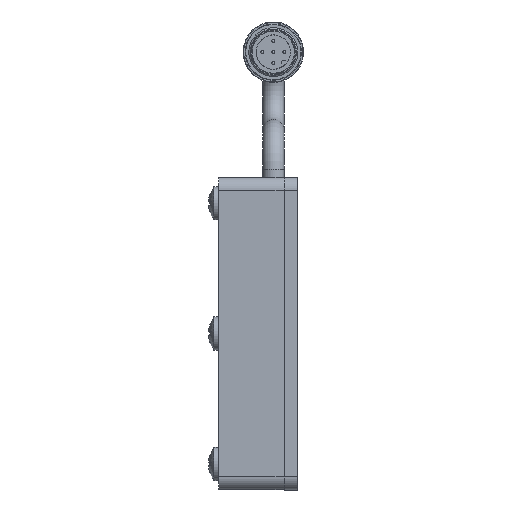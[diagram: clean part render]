
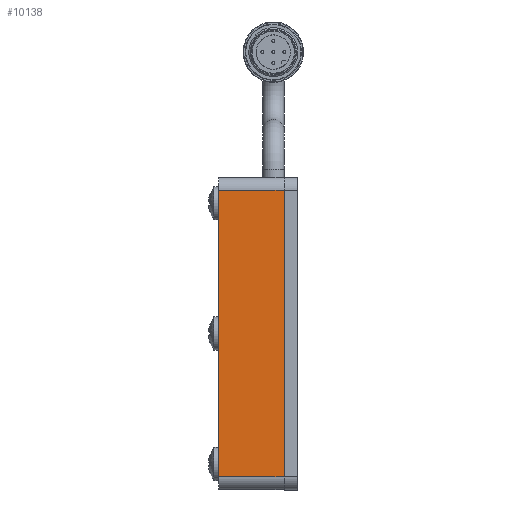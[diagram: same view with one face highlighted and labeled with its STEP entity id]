
A CAD part, left-side view. The second image highlights one B-rep face of the part: STEP entity #10138.
In plain terms, the highlighted planar face has unit normal (-1, 0, 0).
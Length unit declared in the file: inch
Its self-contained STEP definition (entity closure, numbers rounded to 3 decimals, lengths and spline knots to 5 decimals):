
#215 = DIRECTION ( 'NONE',  ( 0., 0., 1. ) ) ;
#358 = ORIENTED_EDGE ( 'NONE', *, *, #5972, .T. ) ;
#893 = ORIENTED_EDGE ( 'NONE', *, *, #4540, .F. ) ;
#942 = VECTOR ( 'NONE', #10187, 39.37008 ) ;
#1330 = VECTOR ( 'NONE', #215, 39.37008 ) ;
#2131 = CARTESIAN_POINT ( 'NONE',  ( -5.5, -0.3125, 1.375 ) ) ;
#2212 = LINE ( 'NONE', #11617, #1330 ) ;
#2345 = EDGE_CURVE ( 'NONE', #9845, #12682, #2212, .T. ) ;
#2519 = VECTOR ( 'NONE', #11648, 39.37008 ) ;
#2701 = DIRECTION ( 'NONE',  ( 1., 0., 0. ) ) ;
#3345 = AXIS2_PLACEMENT_3D ( 'NONE', #6834, #2701, #5537 ) ;
#3836 = LINE ( 'NONE', #11225, #942 ) ;
#4425 = EDGE_CURVE ( 'NONE', #12682, #7448, #3836, .T. ) ;
#4540 = EDGE_CURVE ( 'NONE', #7823, #7448, #7464, .T. ) ;
#5537 = DIRECTION ( 'NONE',  ( 0., 0., -1. ) ) ;
#5972 = EDGE_CURVE ( 'NONE', #7823, #9845, #10739, .T. ) ;
#6473 = ORIENTED_EDGE ( 'NONE', *, *, #2345, .T. ) ;
#6669 = VECTOR ( 'NONE', #9603, 39.37008 ) ;
#6827 = EDGE_LOOP ( 'NONE', ( #893, #358, #6473, #12442 ) ) ;
#6834 = CARTESIAN_POINT ( 'NONE',  ( -5.5, 0.3125, 1.5 ) ) ;
#7448 = VERTEX_POINT ( 'NONE', #11058 ) ;
#7464 = LINE ( 'NONE', #11680, #6669 ) ;
#7823 = VERTEX_POINT ( 'NONE', #12559 ) ;
#7830 = CARTESIAN_POINT ( 'NONE',  ( -5.5, -0.3125, -1.375 ) ) ;
#7881 = PLANE ( 'NONE',  #3345 ) ;
#9603 = DIRECTION ( 'NONE',  ( 0., 0., 1. ) ) ;
#9845 = VERTEX_POINT ( 'NONE', #7830 ) ;
#10138 = ADVANCED_FACE ( 'NONE', ( #12167 ), #7881, .F. ) ;
#10187 = DIRECTION ( 'NONE',  ( 0., 1., 0. ) ) ;
#10675 = CARTESIAN_POINT ( 'NONE',  ( -5.5, 0.3125, -1.375 ) ) ;
#10739 = LINE ( 'NONE', #10675, #2519 ) ;
#11058 = CARTESIAN_POINT ( 'NONE',  ( -5.5, 0.3125, 1.375 ) ) ;
#11225 = CARTESIAN_POINT ( 'NONE',  ( -5.5, 0.3125, 1.375 ) ) ;
#11617 = CARTESIAN_POINT ( 'NONE',  ( -5.5, -0.3125, 1.5 ) ) ;
#11648 = DIRECTION ( 'NONE',  ( 0., -1., 0. ) ) ;
#11680 = CARTESIAN_POINT ( 'NONE',  ( -5.5, 0.3125, 1.5 ) ) ;
#12167 = FACE_OUTER_BOUND ( 'NONE', #6827, .T. ) ;
#12442 = ORIENTED_EDGE ( 'NONE', *, *, #4425, .T. ) ;
#12559 = CARTESIAN_POINT ( 'NONE',  ( -5.5, 0.3125, -1.375 ) ) ;
#12682 = VERTEX_POINT ( 'NONE', #2131 ) ;
